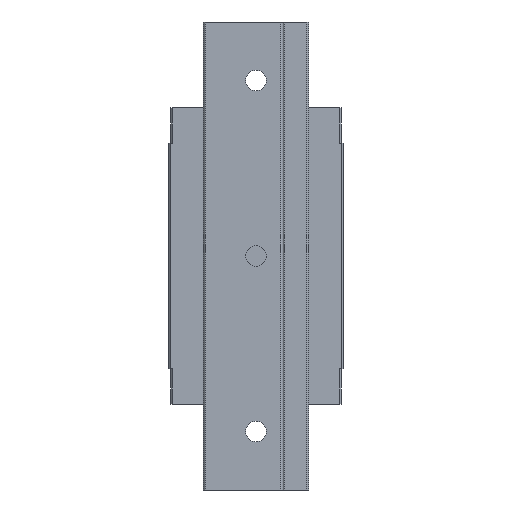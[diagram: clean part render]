
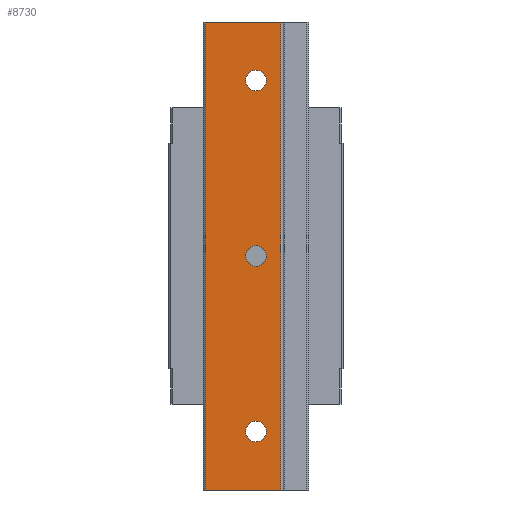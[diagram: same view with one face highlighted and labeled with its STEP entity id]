
A CAD part, front view. The second image highlights one B-rep face of the part: STEP entity #8730.
In plain terms, the highlighted planar face has unit normal (0, -1, 0).
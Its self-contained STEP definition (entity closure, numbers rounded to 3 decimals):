
#75 = DIRECTION ( 'NONE',  ( 0., -1., 0. ) ) ;
#85 = CARTESIAN_POINT ( 'NONE',  ( 0., 0., 31.75 ) ) ;
#157 = VERTEX_POINT ( 'NONE', #85 ) ;
#259 = ORIENTED_EDGE ( 'NONE', *, *, #5054, .F. ) ;
#307 = CIRCLE ( 'NONE', #1706, 1.75 ) ;
#322 = AXIS2_PLACEMENT_3D ( 'NONE', #9597, #6394, #10395 ) ;
#439 = CIRCLE ( 'NONE', #6495, 1.75 ) ;
#517 = CARTESIAN_POINT ( 'NONE',  ( 0., 0., -1.75 ) ) ;
#579 = EDGE_LOOP ( 'NONE', ( #9450, #259 ) ) ;
#716 = VERTEX_POINT ( 'NONE', #2743 ) ;
#745 = EDGE_CURVE ( 'NONE', #1402, #716, #2955, .T. ) ;
#758 = ORIENTED_EDGE ( 'NONE', *, *, #878, .F. ) ;
#856 = CARTESIAN_POINT ( 'NONE',  ( 0., 0., -30. ) ) ;
#878 = EDGE_CURVE ( 'NONE', #716, #1402, #307, .T. ) ;
#1009 = CIRCLE ( 'NONE', #322, 1.75 ) ;
#1058 = LINE ( 'NONE', #8552, #7008 ) ;
#1089 = ORIENTED_EDGE ( 'NONE', *, *, #6910, .F. ) ;
#1140 = CARTESIAN_POINT ( 'NONE',  ( 4.2, 0., 40. ) ) ;
#1402 = VERTEX_POINT ( 'NONE', #517 ) ;
#1477 = EDGE_CURVE ( 'NONE', #3401, #2704, #4690, .T. ) ;
#1604 = DIRECTION ( 'NONE',  ( 0., 0., -1. ) ) ;
#1706 = AXIS2_PLACEMENT_3D ( 'NONE', #2551, #9926, #8439 ) ;
#1792 = ORIENTED_EDGE ( 'NONE', *, *, #9380, .F. ) ;
#2274 = DIRECTION ( 'NONE',  ( 0., -1., 0. ) ) ;
#2432 = EDGE_CURVE ( 'NONE', #5540, #5673, #1009, .T. ) ;
#2551 = CARTESIAN_POINT ( 'NONE',  ( 0., 0., 0. ) ) ;
#2704 = VERTEX_POINT ( 'NONE', #8798 ) ;
#2743 = CARTESIAN_POINT ( 'NONE',  ( 0., 0., 1.75 ) ) ;
#2814 = CARTESIAN_POINT ( 'NONE',  ( 4.5, 0., -40. ) ) ;
#2955 = CIRCLE ( 'NONE', #5687, 1.75 ) ;
#2959 = FACE_BOUND ( 'NONE', #9367, .T. ) ;
#3002 = CARTESIAN_POINT ( 'NONE',  ( -8.7, 0., 40. ) ) ;
#3099 = VERTEX_POINT ( 'NONE', #3943 ) ;
#3401 = VERTEX_POINT ( 'NONE', #1140 ) ;
#3427 = DIRECTION ( 'NONE',  ( 0., 0., -1. ) ) ;
#3488 = CIRCLE ( 'NONE', #9123, 1.75 ) ;
#3684 = CARTESIAN_POINT ( 'NONE',  ( 0., 0., -31.75 ) ) ;
#3706 = FACE_BOUND ( 'NONE', #579, .T. ) ;
#3793 = CARTESIAN_POINT ( 'NONE',  ( 4.2, 0., 40. ) ) ;
#3943 = CARTESIAN_POINT ( 'NONE',  ( -8.7, 0., -40. ) ) ;
#3990 = DIRECTION ( 'NONE',  ( 0., -1., 0. ) ) ;
#4234 = CARTESIAN_POINT ( 'NONE',  ( 0., 0., -28.25 ) ) ;
#4602 = DIRECTION ( 'NONE',  ( 0., -1., 0. ) ) ;
#4690 = LINE ( 'NONE', #3793, #5867 ) ;
#5054 = EDGE_CURVE ( 'NONE', #157, #7395, #6465, .T. ) ;
#5099 = DIRECTION ( 'NONE',  ( -1., 0., 0. ) ) ;
#5412 = CARTESIAN_POINT ( 'NONE',  ( 0., 0., 0. ) ) ;
#5540 = VERTEX_POINT ( 'NONE', #4234 ) ;
#5673 = VERTEX_POINT ( 'NONE', #3684 ) ;
#5687 = AXIS2_PLACEMENT_3D ( 'NONE', #5412, #4602, #1604 ) ;
#5723 = DIRECTION ( 'NONE',  ( 1., 0., 0. ) ) ;
#5773 = PLANE ( 'NONE',  #7800 ) ;
#5806 = EDGE_CURVE ( 'NONE', #7395, #157, #439, .T. ) ;
#5814 = ORIENTED_EDGE ( 'NONE', *, *, #745, .F. ) ;
#5852 = EDGE_LOOP ( 'NONE', ( #9431, #1089, #8827, #7730 ) ) ;
#5867 = VECTOR ( 'NONE', #6403, 1000. ) ;
#6115 = VERTEX_POINT ( 'NONE', #3002 ) ;
#6212 = FACE_OUTER_BOUND ( 'NONE', #5852, .T. ) ;
#6248 = VECTOR ( 'NONE', #9831, 1000. ) ;
#6394 = DIRECTION ( 'NONE',  ( 0., -1., 0. ) ) ;
#6403 = DIRECTION ( 'NONE',  ( 0., 0., -1. ) ) ;
#6460 = CARTESIAN_POINT ( 'NONE',  ( 0., 0., 30. ) ) ;
#6465 = CIRCLE ( 'NONE', #7313, 1.75 ) ;
#6495 = AXIS2_PLACEMENT_3D ( 'NONE', #6460, #2274, #8016 ) ;
#6910 = EDGE_CURVE ( 'NONE', #3099, #6115, #1058, .T. ) ;
#6972 = FACE_BOUND ( 'NONE', #9511, .T. ) ;
#7008 = VECTOR ( 'NONE', #8497, 1000. ) ;
#7242 = DIRECTION ( 'NONE',  ( 0., 0., -1. ) ) ;
#7313 = AXIS2_PLACEMENT_3D ( 'NONE', #7483, #75, #3427 ) ;
#7363 = ORIENTED_EDGE ( 'NONE', *, *, #2432, .F. ) ;
#7395 = VERTEX_POINT ( 'NONE', #7459 ) ;
#7459 = CARTESIAN_POINT ( 'NONE',  ( 0., 0., 28.25 ) ) ;
#7483 = CARTESIAN_POINT ( 'NONE',  ( 0., 0., 30. ) ) ;
#7730 = ORIENTED_EDGE ( 'NONE', *, *, #1477, .F. ) ;
#7800 = AXIS2_PLACEMENT_3D ( 'NONE', #8179, #9085, #5723 ) ;
#7937 = EDGE_CURVE ( 'NONE', #3401, #6115, #9030, .T. ) ;
#8016 = DIRECTION ( 'NONE',  ( 0., 0., -1. ) ) ;
#8179 = CARTESIAN_POINT ( 'NONE',  ( -9., 0., 40. ) ) ;
#8439 = DIRECTION ( 'NONE',  ( 0., 0., -1. ) ) ;
#8497 = DIRECTION ( 'NONE',  ( 0., 0., 1. ) ) ;
#8552 = CARTESIAN_POINT ( 'NONE',  ( -8.7, 0., 40. ) ) ;
#8730 = ADVANCED_FACE ( 'NONE', ( #3706, #6972, #2959, #6212 ), #5773, .F. ) ;
#8777 = VECTOR ( 'NONE', #5099, 1000. ) ;
#8798 = CARTESIAN_POINT ( 'NONE',  ( 4.2, 0., -40. ) ) ;
#8827 = ORIENTED_EDGE ( 'NONE', *, *, #9165, .F. ) ;
#9030 = LINE ( 'NONE', #10509, #6248 ) ;
#9085 = DIRECTION ( 'NONE',  ( 0., 1., 0. ) ) ;
#9123 = AXIS2_PLACEMENT_3D ( 'NONE', #856, #3990, #7242 ) ;
#9165 = EDGE_CURVE ( 'NONE', #2704, #3099, #10123, .T. ) ;
#9367 = EDGE_LOOP ( 'NONE', ( #1792, #7363 ) ) ;
#9380 = EDGE_CURVE ( 'NONE', #5673, #5540, #3488, .T. ) ;
#9431 = ORIENTED_EDGE ( 'NONE', *, *, #7937, .T. ) ;
#9450 = ORIENTED_EDGE ( 'NONE', *, *, #5806, .F. ) ;
#9511 = EDGE_LOOP ( 'NONE', ( #5814, #758 ) ) ;
#9597 = CARTESIAN_POINT ( 'NONE',  ( 0., 0., -30. ) ) ;
#9831 = DIRECTION ( 'NONE',  ( -1., 0., 0. ) ) ;
#9926 = DIRECTION ( 'NONE',  ( 0., -1., 0. ) ) ;
#10123 = LINE ( 'NONE', #2814, #8777 ) ;
#10395 = DIRECTION ( 'NONE',  ( 0., 0., -1. ) ) ;
#10509 = CARTESIAN_POINT ( 'NONE',  ( 4.5, 0., 40. ) ) ;
